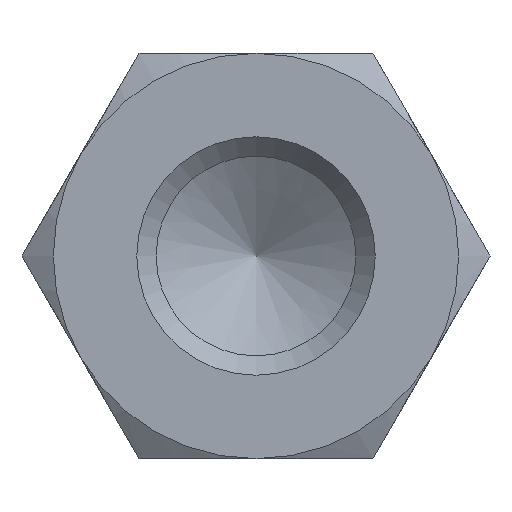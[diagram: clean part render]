
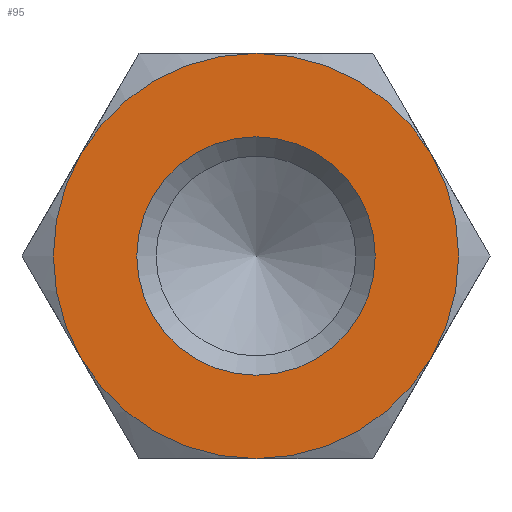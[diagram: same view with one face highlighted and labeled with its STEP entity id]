
A CAD part, left-side view. The second image highlights one B-rep face of the part: STEP entity #95.
In plain terms, the highlighted planar face has unit normal (-1, 0, 0).
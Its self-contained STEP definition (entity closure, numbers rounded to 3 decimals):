
#95 = ADVANCED_FACE( '', ( #147, #148 ), #149, .F. );
#147 = FACE_OUTER_BOUND( '', #206, .T. );
#148 = FACE_BOUND( '', #207, .T. );
#149 = PLANE( '', #208 );
#206 = EDGE_LOOP( '', ( #356, #357, #358, #359, #360, #361 ) );
#207 = EDGE_LOOP( '', ( #362 ) );
#208 = AXIS2_PLACEMENT_3D( '', #363, #364, #365 );
#356 = ORIENTED_EDGE( '', *, *, #440, .F. );
#357 = ORIENTED_EDGE( '', *, *, #425, .F. );
#358 = ORIENTED_EDGE( '', *, *, #441, .F. );
#359 = ORIENTED_EDGE( '', *, *, #437, .F. );
#360 = ORIENTED_EDGE( '', *, *, #442, .F. );
#361 = ORIENTED_EDGE( '', *, *, #443, .F. );
#362 = ORIENTED_EDGE( '', *, *, #439, .T. );
#363 = CARTESIAN_POINT( '', ( -40., 0., 0. ) );
#364 = DIRECTION( '', ( 1., 0., 0. ) );
#365 = DIRECTION( '', ( 0., 0., -1. ) );
#425 = EDGE_CURVE( '', #495, #493, #497, .T. );
#437 = EDGE_CURVE( '', #447, #506, #513, .T. );
#439 = EDGE_CURVE( '', #516, #516, #517, .T. );
#440 = EDGE_CURVE( '', #493, #486, #518, .T. );
#441 = EDGE_CURVE( '', #506, #495, #519, .T. );
#442 = EDGE_CURVE( '', #481, #447, #520, .T. );
#443 = EDGE_CURVE( '', #486, #481, #521, .T. );
#447 = VERTEX_POINT( '', #525 );
#481 = VERTEX_POINT( '', #607 );
#486 = VERTEX_POINT( '', #623 );
#493 = VERTEX_POINT( '', #650 );
#495 = VERTEX_POINT( '', #657 );
#497 = CIRCLE( '', #664, 8.5 );
#506 = VERTEX_POINT( '', #690 );
#513 = CIRCLE( '', #733, 8.5 );
#516 = VERTEX_POINT( '', #736 );
#517 = CIRCLE( '', #737, 5. );
#518 = CIRCLE( '', #738, 8.5 );
#519 = CIRCLE( '', #739, 8.5 );
#520 = CIRCLE( '', #740, 8.5 );
#521 = CIRCLE( '', #741, 8.5 );
#525 = CARTESIAN_POINT( '', ( -40., -7.361, 4.25 ) );
#607 = CARTESIAN_POINT( '', ( -40., 0., 8.5 ) );
#623 = CARTESIAN_POINT( '', ( -40., 7.361, 4.25 ) );
#650 = CARTESIAN_POINT( '', ( -40., 7.361, -4.25 ) );
#657 = CARTESIAN_POINT( '', ( -40., 0., -8.5 ) );
#664 = AXIS2_PLACEMENT_3D( '', #776, #777, #778 );
#690 = CARTESIAN_POINT( '', ( -40., -7.361, -4.25 ) );
#733 = AXIS2_PLACEMENT_3D( '', #781, #782, #783 );
#736 = CARTESIAN_POINT( '', ( -40., 0., -5. ) );
#737 = AXIS2_PLACEMENT_3D( '', #787, #788, #789 );
#738 = AXIS2_PLACEMENT_3D( '', #790, #791, #792 );
#739 = AXIS2_PLACEMENT_3D( '', #793, #794, #795 );
#740 = AXIS2_PLACEMENT_3D( '', #796, #797, #798 );
#741 = AXIS2_PLACEMENT_3D( '', #799, #800, #801 );
#776 = CARTESIAN_POINT( '', ( -40., 0., 0. ) );
#777 = DIRECTION( '', ( 1., 0., 0. ) );
#778 = DIRECTION( '', ( 0., 0., -1. ) );
#781 = CARTESIAN_POINT( '', ( -40., 0., 0. ) );
#782 = DIRECTION( '', ( 1., 0., 0. ) );
#783 = DIRECTION( '', ( 0., 0., -1. ) );
#787 = CARTESIAN_POINT( '', ( -40., 0., 0. ) );
#788 = DIRECTION( '', ( 1., 0., 0. ) );
#789 = DIRECTION( '', ( 0., 0., -1. ) );
#790 = CARTESIAN_POINT( '', ( -40., 0., 0. ) );
#791 = DIRECTION( '', ( 1., 0., 0. ) );
#792 = DIRECTION( '', ( 0., 0., -1. ) );
#793 = CARTESIAN_POINT( '', ( -40., 0., 0. ) );
#794 = DIRECTION( '', ( 1., 0., 0. ) );
#795 = DIRECTION( '', ( 0., 0., -1. ) );
#796 = CARTESIAN_POINT( '', ( -40., 0., 0. ) );
#797 = DIRECTION( '', ( 1., 0., 0. ) );
#798 = DIRECTION( '', ( 0., 0., -1. ) );
#799 = CARTESIAN_POINT( '', ( -40., 0., 0. ) );
#800 = DIRECTION( '', ( 1., 0., 0. ) );
#801 = DIRECTION( '', ( 0., 0., -1. ) );
